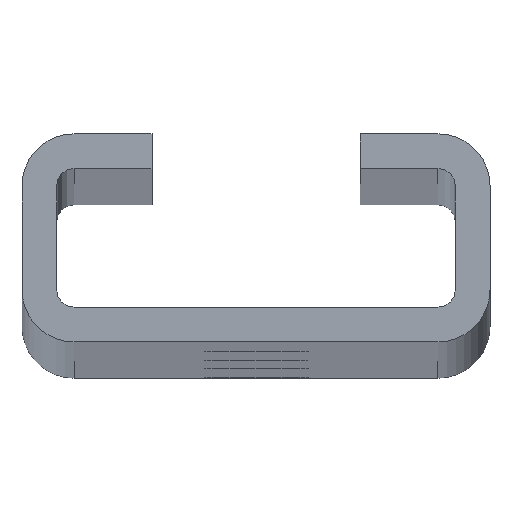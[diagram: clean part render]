
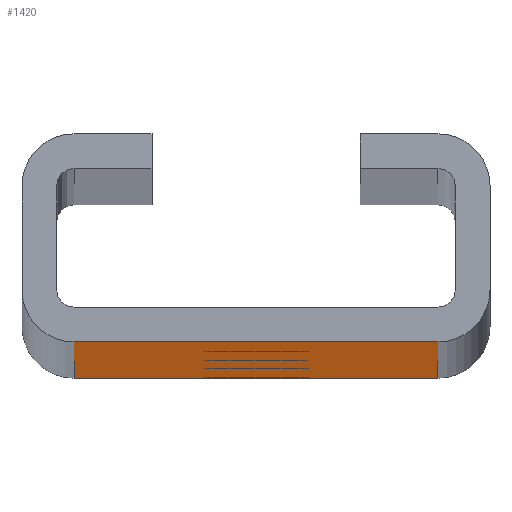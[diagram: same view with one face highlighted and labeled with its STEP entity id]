
A CAD part, top view. The second image highlights one B-rep face of the part: STEP entity #1420.
In plain terms, the highlighted planar face has unit normal (0, -1, 0).
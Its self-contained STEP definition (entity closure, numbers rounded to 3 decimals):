
#4 = FACE_BOUND ( 'NONE', #73, .T. ) ;
#8 = FACE_BOUND ( 'NONE', #76, .T. ) ;
#21 = ORIENTED_EDGE ( 'NONE', *, *, #646, .T. ) ;
#54 = EDGE_LOOP ( 'NONE', ( #21, #1137 ) ) ;
#55 = EDGE_LOOP ( 'NONE', ( #1075, #1074 ) ) ;
#73 = EDGE_LOOP ( 'NONE', ( #1039, #1034 ) ) ;
#75 = EDGE_LOOP ( 'NONE', ( #1087, #1086, #1085, #1084 ) ) ;
#76 = EDGE_LOOP ( 'NONE', ( #1089, #1088 ) ) ;
#92 = EDGE_LOOP ( 'NONE', ( #1083, #1081 ) ) ;
#101 = VERTEX_POINT ( 'NONE', #970 ) ;
#108 = VERTEX_POINT ( 'NONE', #1012 ) ;
#111 = VERTEX_POINT ( 'NONE', #997 ) ;
#116 = VERTEX_POINT ( 'NONE', #977 ) ;
#120 = VERTEX_POINT ( 'NONE', #967 ) ;
#122 = VERTEX_POINT ( 'NONE', #957 ) ;
#126 = VERTEX_POINT ( 'NONE', #952 ) ;
#127 = VERTEX_POINT ( 'NONE', #951 ) ;
#128 = VERTEX_POINT ( 'NONE', #949 ) ;
#129 = VERTEX_POINT ( 'NONE', #948 ) ;
#138 = VERTEX_POINT ( 'NONE', #937 ) ;
#139 = VERTEX_POINT ( 'NONE', #935 ) ;
#142 = VERTEX_POINT ( 'NONE', #931 ) ;
#155 = VERTEX_POINT ( 'NONE', #907 ) ;
#167 = CIRCLE ( 'NONE', #477, 3. ) ;
#359 = CIRCLE ( 'NONE', #468, 3. ) ;
#364 = CIRCLE ( 'NONE', #812, 3. ) ;
#368 = CIRCLE ( 'NONE', #844, 3. ) ;
#370 = CIRCLE ( 'NONE', #813, 3. ) ;
#423 = FACE_BOUND ( 'NONE', #54, .T. ) ;
#432 = CIRCLE ( 'NONE', #599, 3. ) ;
#438 = CIRCLE ( 'NONE', #596, 3. ) ;
#468 = AXIS2_PLACEMENT_3D ( 'NONE', #1302, #1299, #1300 ) ;
#476 = AXIS2_PLACEMENT_3D ( 'NONE', #1360, #1356, #1355 ) ;
#477 = AXIS2_PLACEMENT_3D ( 'NONE', #1351, #1350, #1349 ) ;
#505 = AXIS2_PLACEMENT_3D ( 'NONE', #1257, #1256, #1255 ) ;
#596 = AXIS2_PLACEMENT_3D ( 'NONE', #991, #990, #988 ) ;
#599 = AXIS2_PLACEMENT_3D ( 'NONE', #1005, #1004, #1003 ) ;
#607 = EDGE_CURVE ( 'NONE', #111, #142, #432, .T. ) ;
#610 = EDGE_CURVE ( 'NONE', #116, #155, #438, .T. ) ;
#643 = EDGE_CURVE ( 'NONE', #142, #111, #804, .T. ) ;
#644 = EDGE_CURVE ( 'NONE', #138, #126, #807, .T. ) ;
#646 = EDGE_CURVE ( 'NONE', #129, #101, #792, .T. ) ;
#648 = EDGE_CURVE ( 'NONE', #128, #127, #368, .T. ) ;
#649 = EDGE_CURVE ( 'NONE', #101, #129, #370, .T. ) ;
#652 = EDGE_CURVE ( 'NONE', #127, #128, #364, .T. ) ;
#656 = EDGE_CURVE ( 'NONE', #122, #139, #359, .T. ) ;
#684 = EDGE_CURVE ( 'NONE', #108, #120, #821, .T. ) ;
#686 = EDGE_CURVE ( 'NONE', #138, #108, #865, .T. ) ;
#687 = EDGE_CURVE ( 'NONE', #126, #120, #866, .T. ) ;
#688 = EDGE_CURVE ( 'NONE', #155, #116, #863, .T. ) ;
#689 = EDGE_CURVE ( 'NONE', #139, #122, #167, .T. ) ;
#695 = FACE_BOUND ( 'NONE', #92, .T. ) ;
#696 = FACE_BOUND ( 'NONE', #55, .T. ) ;
#697 = FACE_OUTER_BOUND ( 'NONE', #75, .T. ) ;
#791 = VECTOR ( 'NONE', #1397, 1000. ) ;
#792 = CIRCLE ( 'NONE', #842, 3. ) ;
#804 = CIRCLE ( 'NONE', #843, 3. ) ;
#807 = LINE ( 'NONE', #1407, #791 ) ;
#812 = AXIS2_PLACEMENT_3D ( 'NONE', #1332, #1331, #1342 ) ;
#813 = AXIS2_PLACEMENT_3D ( 'NONE', #1358, #1368, #1357 ) ;
#821 = LINE ( 'NONE', #1379, #861 ) ;
#842 = AXIS2_PLACEMENT_3D ( 'NONE', #1381, #1380, #1377 ) ;
#843 = AXIS2_PLACEMENT_3D ( 'NONE', #1408, #1399, #1402 ) ;
#844 = AXIS2_PLACEMENT_3D ( 'NONE', #1365, #1363, #1361 ) ;
#861 = VECTOR ( 'NONE', #1376, 1000. ) ;
#862 = VECTOR ( 'NONE', #1366, 1000. ) ;
#863 = CIRCLE ( 'NONE', #476, 3. ) ;
#864 = VECTOR ( 'NONE', #1385, 1000. ) ;
#865 = LINE ( 'NONE', #1378, #864 ) ;
#866 = LINE ( 'NONE', #1367, #862 ) ;
#907 = CARTESIAN_POINT ( 'NONE',  ( 10.5, 0., 885. ) ) ;
#931 = CARTESIAN_POINT ( 'NONE',  ( 10.5, 0., 600. ) ) ;
#935 = CARTESIAN_POINT ( 'NONE',  ( 10.5, 0., 1170. ) ) ;
#937 = CARTESIAN_POINT ( 'NONE',  ( 3., 0., 1200. ) ) ;
#948 = CARTESIAN_POINT ( 'NONE',  ( 10.5, 0., 30. ) ) ;
#949 = CARTESIAN_POINT ( 'NONE',  ( 10.5, 0., 315. ) ) ;
#951 = CARTESIAN_POINT ( 'NONE',  ( 16.5, 0., 315. ) ) ;
#952 = CARTESIAN_POINT ( 'NONE',  ( 24., 0., 1200. ) ) ;
#957 = CARTESIAN_POINT ( 'NONE',  ( 16.5, 0., 1170. ) ) ;
#967 = CARTESIAN_POINT ( 'NONE',  ( 24., 0., 0. ) ) ;
#970 = CARTESIAN_POINT ( 'NONE',  ( 16.5, 0., 30. ) ) ;
#977 = CARTESIAN_POINT ( 'NONE',  ( 16.5, 0., 885. ) ) ;
#988 = DIRECTION ( 'NONE',  ( 0., 0., 1. ) ) ;
#990 = DIRECTION ( 'NONE',  ( 0., 1., 0. ) ) ;
#991 = CARTESIAN_POINT ( 'NONE',  ( 13.5, 0., 885. ) ) ;
#997 = CARTESIAN_POINT ( 'NONE',  ( 16.5, 0., 600. ) ) ;
#1003 = DIRECTION ( 'NONE',  ( 0., 0., 1. ) ) ;
#1004 = DIRECTION ( 'NONE',  ( 0., 1., 0. ) ) ;
#1005 = CARTESIAN_POINT ( 'NONE',  ( 13.5, 0., 600. ) ) ;
#1012 = CARTESIAN_POINT ( 'NONE',  ( 3., 0., 0. ) ) ;
#1034 = ORIENTED_EDGE ( 'NONE', *, *, #652, .T. ) ;
#1039 = ORIENTED_EDGE ( 'NONE', *, *, #648, .T. ) ;
#1074 = ORIENTED_EDGE ( 'NONE', *, *, #610, .T. ) ;
#1075 = ORIENTED_EDGE ( 'NONE', *, *, #688, .T. ) ;
#1081 = ORIENTED_EDGE ( 'NONE', *, *, #607, .T. ) ;
#1083 = ORIENTED_EDGE ( 'NONE', *, *, #643, .T. ) ;
#1084 = ORIENTED_EDGE ( 'NONE', *, *, #686, .T. ) ;
#1085 = ORIENTED_EDGE ( 'NONE', *, *, #644, .F. ) ;
#1086 = ORIENTED_EDGE ( 'NONE', *, *, #687, .F. ) ;
#1087 = ORIENTED_EDGE ( 'NONE', *, *, #684, .T. ) ;
#1088 = ORIENTED_EDGE ( 'NONE', *, *, #656, .T. ) ;
#1089 = ORIENTED_EDGE ( 'NONE', *, *, #689, .T. ) ;
#1137 = ORIENTED_EDGE ( 'NONE', *, *, #649, .T. ) ;
#1255 = DIRECTION ( 'NONE',  ( 0., 0., 1. ) ) ;
#1256 = DIRECTION ( 'NONE',  ( 0., 1., 0. ) ) ;
#1257 = CARTESIAN_POINT ( 'NONE',  ( 3., 0., 1200. ) ) ;
#1267 = PLANE ( 'NONE',  #505 ) ;
#1299 = DIRECTION ( 'NONE',  ( 0., 1., 0. ) ) ;
#1300 = DIRECTION ( 'NONE',  ( 0., 0., 1. ) ) ;
#1302 = CARTESIAN_POINT ( 'NONE',  ( 13.5, 0., 1170. ) ) ;
#1331 = DIRECTION ( 'NONE',  ( 0., 1., 0. ) ) ;
#1332 = CARTESIAN_POINT ( 'NONE',  ( 13.5, 0., 315. ) ) ;
#1342 = DIRECTION ( 'NONE',  ( 0., 0., 1. ) ) ;
#1349 = DIRECTION ( 'NONE',  ( 0., 0., 1. ) ) ;
#1350 = DIRECTION ( 'NONE',  ( 0., 1., 0. ) ) ;
#1351 = CARTESIAN_POINT ( 'NONE',  ( 13.5, 0., 1170. ) ) ;
#1355 = DIRECTION ( 'NONE',  ( 0., 0., 1. ) ) ;
#1356 = DIRECTION ( 'NONE',  ( 0., 1., 0. ) ) ;
#1357 = DIRECTION ( 'NONE',  ( 0., 0., 1. ) ) ;
#1358 = CARTESIAN_POINT ( 'NONE',  ( 13.5, 0., 30. ) ) ;
#1360 = CARTESIAN_POINT ( 'NONE',  ( 13.5, 0., 885. ) ) ;
#1361 = DIRECTION ( 'NONE',  ( 0., 0., 1. ) ) ;
#1363 = DIRECTION ( 'NONE',  ( 0., 1., 0. ) ) ;
#1365 = CARTESIAN_POINT ( 'NONE',  ( 13.5, 0., 315. ) ) ;
#1366 = DIRECTION ( 'NONE',  ( 0., 0., -1. ) ) ;
#1367 = CARTESIAN_POINT ( 'NONE',  ( 24., 0., 1200. ) ) ;
#1368 = DIRECTION ( 'NONE',  ( 0., 1., 0. ) ) ;
#1376 = DIRECTION ( 'NONE',  ( 1., 0., 0. ) ) ;
#1377 = DIRECTION ( 'NONE',  ( 0., 0., 1. ) ) ;
#1378 = CARTESIAN_POINT ( 'NONE',  ( 3., 0., 1200. ) ) ;
#1379 = CARTESIAN_POINT ( 'NONE',  ( 3., 0., 0. ) ) ;
#1380 = DIRECTION ( 'NONE',  ( 0., 1., 0. ) ) ;
#1381 = CARTESIAN_POINT ( 'NONE',  ( 13.5, 0., 30. ) ) ;
#1385 = DIRECTION ( 'NONE',  ( 0., 0., -1. ) ) ;
#1397 = DIRECTION ( 'NONE',  ( 1., 0., 0. ) ) ;
#1399 = DIRECTION ( 'NONE',  ( 0., 1., 0. ) ) ;
#1402 = DIRECTION ( 'NONE',  ( 0., 0., 1. ) ) ;
#1407 = CARTESIAN_POINT ( 'NONE',  ( 3., 0., 1200. ) ) ;
#1408 = CARTESIAN_POINT ( 'NONE',  ( 13.5, 0., 600. ) ) ;
#1420 = ADVANCED_FACE ( 'NONE', ( #696, #8, #697, #695, #4, #423 ), #1267, .F. ) ;
